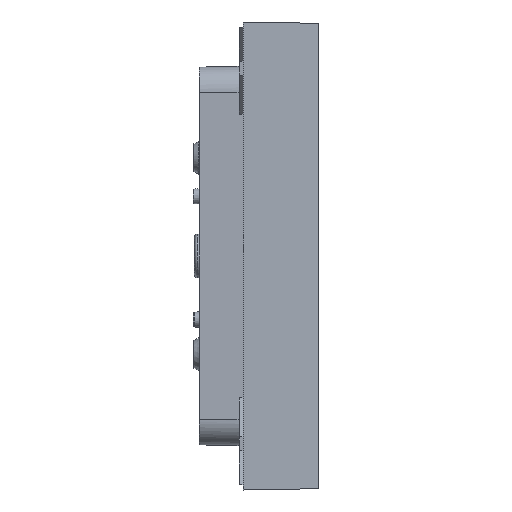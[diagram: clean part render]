
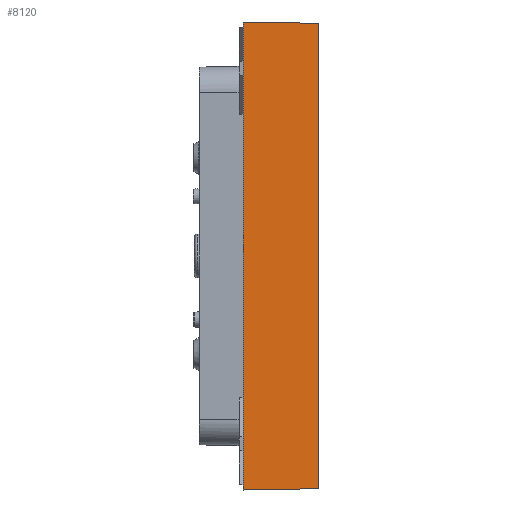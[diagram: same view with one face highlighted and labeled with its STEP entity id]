
A CAD part, front view. The second image highlights one B-rep face of the part: STEP entity #8120.
In plain terms, the highlighted planar face has unit normal (0.018, -1, 0).
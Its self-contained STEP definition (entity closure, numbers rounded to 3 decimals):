
#942 = DIRECTION ( 'NONE',  ( 0.017, -1., 0. ) ) ;
#1613 = VECTOR ( 'NONE', #9130, 1000. ) ;
#1838 = EDGE_CURVE ( 'NONE', #23553, #2349, #8606, .T. ) ;
#2349 = VERTEX_POINT ( 'NONE', #13988 ) ;
#3383 = CARTESIAN_POINT ( 'NONE',  ( 35.25, -513.168, -130.418 ) ) ;
#3422 = VECTOR ( 'NONE', #16796, 1000. ) ;
#4010 = CARTESIAN_POINT ( 'NONE',  ( -2.75, -513.832, -131.082 ) ) ;
#4782 = CARTESIAN_POINT ( 'NONE',  ( 35.25, -513.168, -121.082 ) ) ;
#5251 = ORIENTED_EDGE ( 'NONE', *, *, #14235, .F. ) ;
#6245 = PLANE ( 'NONE',  #22450 ) ;
#6386 = VECTOR ( 'NONE', #11224, 1000. ) ;
#7131 = VECTOR ( 'NONE', #10491, 1000. ) ;
#8120 = ADVANCED_FACE ( 'NONE', ( #24462 ), #6245, .T. ) ;
#8606 = LINE ( 'NONE', #4782, #1613 ) ;
#9020 = EDGE_CURVE ( 'NONE', #13011, #23553, #12700, .T. ) ;
#9130 = DIRECTION ( 'NONE',  ( 0., 0., 1. ) ) ;
#9470 = EDGE_LOOP ( 'NONE', ( #15737, #18365, #5251, #22237 ) ) ;
#10491 = DIRECTION ( 'NONE',  ( 1., 0.017, -0.017 ) ) ;
#11224 = DIRECTION ( 'NONE',  ( 0., 0., 1. ) ) ;
#12700 = LINE ( 'NONE', #20803, #3422 ) ;
#13011 = VERTEX_POINT ( 'NONE', #4010 ) ;
#13988 = CARTESIAN_POINT ( 'NONE',  ( 35.25, -513.168, 103.918 ) ) ;
#13991 = CARTESIAN_POINT ( 'NONE',  ( -2.75, -513.832, 104.582 ) ) ;
#14235 = EDGE_CURVE ( 'NONE', #13011, #19460, #19209, .T. ) ;
#15737 = ORIENTED_EDGE ( 'NONE', *, *, #1838, .T. ) ;
#16796 = DIRECTION ( 'NONE',  ( 1., 0.017, 0.017 ) ) ;
#18340 = CARTESIAN_POINT ( 'NONE',  ( -0.695, -513.796, 104.546 ) ) ;
#18365 = ORIENTED_EDGE ( 'NONE', *, *, #21540, .F. ) ;
#18598 = CARTESIAN_POINT ( 'NONE',  ( -2.75, -513.832, -13.25 ) ) ;
#19209 = LINE ( 'NONE', #25318, #6386 ) ;
#19460 = VERTEX_POINT ( 'NONE', #13991 ) ;
#20323 = LINE ( 'NONE', #18340, #7131 ) ;
#20803 = CARTESIAN_POINT ( 'NONE',  ( -0.695, -513.796, -131.046 ) ) ;
#21259 = DIRECTION ( 'NONE',  ( 0., 0., -1. ) ) ;
#21540 = EDGE_CURVE ( 'NONE', #19460, #2349, #20323, .T. ) ;
#22237 = ORIENTED_EDGE ( 'NONE', *, *, #9020, .T. ) ;
#22450 = AXIS2_PLACEMENT_3D ( 'NONE', #18598, #942, #21259 ) ;
#23553 = VERTEX_POINT ( 'NONE', #3383 ) ;
#24462 = FACE_OUTER_BOUND ( 'NONE', #9470, .T. ) ;
#25318 = CARTESIAN_POINT ( 'NONE',  ( -2.75, -513.832, -13.25 ) ) ;
